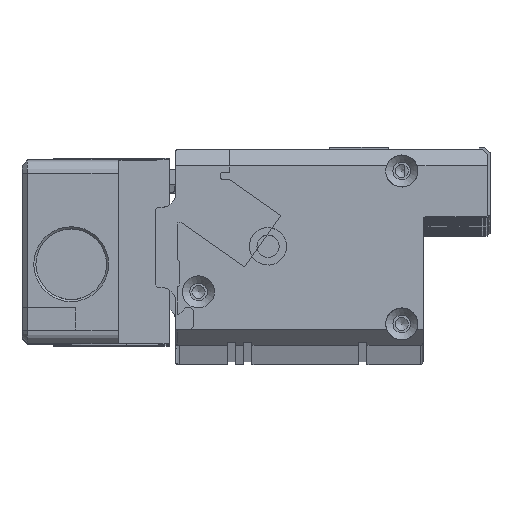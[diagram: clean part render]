
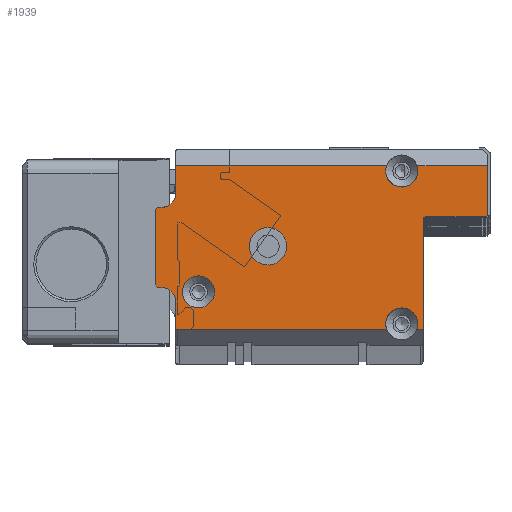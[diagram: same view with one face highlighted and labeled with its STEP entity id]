
A CAD part, top view. The second image highlights one B-rep face of the part: STEP entity #1939.
In plain terms, the highlighted planar face has unit normal (0, 0, 1).
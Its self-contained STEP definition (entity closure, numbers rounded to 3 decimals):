
#1939=ADVANCED_FACE('',(#8200,#8201,#8202),#3088,.T.);
#3088=PLANE('',#23184);
#3877=LINE('',#32192,#6065);
#3878=LINE('',#32194,#6066);
#3879=LINE('',#32198,#6067);
#3880=LINE('',#32202,#6068);
#3881=LINE('',#32204,#6069);
#3882=LINE('',#32208,#6070);
#3883=LINE('',#32210,#6071);
#3884=LINE('',#32214,#6072);
#3885=LINE('',#32218,#6073);
#3886=LINE('',#32222,#6074);
#3887=LINE('',#32226,#6075);
#3888=LINE('',#32228,#6076);
#6065=VECTOR('',#25567,1.);
#6066=VECTOR('',#25568,1.);
#6067=VECTOR('',#25571,1.);
#6068=VECTOR('',#25574,1.);
#6069=VECTOR('',#25575,1.);
#6070=VECTOR('',#25578,1.);
#6071=VECTOR('',#25579,1.);
#6072=VECTOR('',#25582,1.);
#6073=VECTOR('',#25585,1.);
#6074=VECTOR('',#25588,1.);
#6075=VECTOR('',#25591,1.);
#6076=VECTOR('',#25592,1.);
#8200=FACE_BOUND('',#8564,.T.);
#8201=FACE_BOUND('',#8565,.T.);
#8202=FACE_BOUND('',#8566,.T.);
#8564=EDGE_LOOP('',(#10104));
#8565=EDGE_LOOP('',(#10105,#10106,#10107,#10108,#10109,#10110,#10111,#10112,
#10113,#10114,#10115,#10116,#10117,#10118,#10119,#10120,#10121,#10122,#10123,
#10124));
#8566=EDGE_LOOP('',(#10125));
#10104=ORIENTED_EDGE('',*,*,#18981,.T.);
#10105=ORIENTED_EDGE('',*,*,#18982,.T.);
#10106=ORIENTED_EDGE('',*,*,#18983,.T.);
#10107=ORIENTED_EDGE('',*,*,#18984,.T.);
#10108=ORIENTED_EDGE('',*,*,#18985,.T.);
#10109=ORIENTED_EDGE('',*,*,#18986,.T.);
#10110=ORIENTED_EDGE('',*,*,#18987,.T.);
#10111=ORIENTED_EDGE('',*,*,#18988,.T.);
#10112=ORIENTED_EDGE('',*,*,#18989,.T.);
#10113=ORIENTED_EDGE('',*,*,#18990,.T.);
#10114=ORIENTED_EDGE('',*,*,#18991,.T.);
#10115=ORIENTED_EDGE('',*,*,#18992,.T.);
#10116=ORIENTED_EDGE('',*,*,#18993,.T.);
#10117=ORIENTED_EDGE('',*,*,#18994,.T.);
#10118=ORIENTED_EDGE('',*,*,#18995,.T.);
#10119=ORIENTED_EDGE('',*,*,#18996,.T.);
#10120=ORIENTED_EDGE('',*,*,#18997,.T.);
#10121=ORIENTED_EDGE('',*,*,#18998,.T.);
#10122=ORIENTED_EDGE('',*,*,#18999,.T.);
#10123=ORIENTED_EDGE('',*,*,#19000,.T.);
#10124=ORIENTED_EDGE('',*,*,#19001,.T.);
#10125=ORIENTED_EDGE('',*,*,#19002,.T.);
#16666=VERTEX_POINT('',#32188);
#16667=VERTEX_POINT('',#32190);
#16668=VERTEX_POINT('',#32191);
#16669=VERTEX_POINT('',#32193);
#16670=VERTEX_POINT('',#32195);
#16671=VERTEX_POINT('',#32197);
#16672=VERTEX_POINT('',#32199);
#16673=VERTEX_POINT('',#32201);
#16674=VERTEX_POINT('',#32203);
#16675=VERTEX_POINT('',#32205);
#16676=VERTEX_POINT('',#32207);
#16677=VERTEX_POINT('',#32209);
#16678=VERTEX_POINT('',#32211);
#16679=VERTEX_POINT('',#32213);
#16680=VERTEX_POINT('',#32215);
#16681=VERTEX_POINT('',#32217);
#16682=VERTEX_POINT('',#32219);
#16683=VERTEX_POINT('',#32221);
#16684=VERTEX_POINT('',#32223);
#16685=VERTEX_POINT('',#32225);
#16686=VERTEX_POINT('',#32227);
#16687=VERTEX_POINT('',#32230);
#18981=EDGE_CURVE('',#16666,#16666,#22250,.T.);
#18982=EDGE_CURVE('',#16667,#16668,#22251,.T.);
#18983=EDGE_CURVE('',#16668,#16669,#3877,.T.);
#18984=EDGE_CURVE('',#16669,#16670,#3878,.T.);
#18985=EDGE_CURVE('',#16670,#16671,#22252,.T.);
#18986=EDGE_CURVE('',#16671,#16672,#3879,.T.);
#18987=EDGE_CURVE('',#16672,#16673,#22253,.T.);
#18988=EDGE_CURVE('',#16673,#16674,#3880,.T.);
#18989=EDGE_CURVE('',#16674,#16675,#3881,.T.);
#18990=EDGE_CURVE('',#16675,#16676,#22254,.T.);
#18991=EDGE_CURVE('',#16676,#16677,#3882,.T.);
#18992=EDGE_CURVE('',#16677,#16678,#3883,.T.);
#18993=EDGE_CURVE('',#16678,#16679,#22255,.T.);
#18994=EDGE_CURVE('',#16679,#16680,#3884,.T.);
#18995=EDGE_CURVE('',#16680,#16681,#22256,.T.);
#18996=EDGE_CURVE('',#16681,#16682,#3885,.T.);
#18997=EDGE_CURVE('',#16682,#16683,#22257,.T.);
#18998=EDGE_CURVE('',#16683,#16684,#3886,.T.);
#18999=EDGE_CURVE('',#16684,#16685,#22258,.T.);
#19000=EDGE_CURVE('',#16685,#16686,#3887,.T.);
#19001=EDGE_CURVE('',#16686,#16667,#3888,.T.);
#19002=EDGE_CURVE('',#16687,#16687,#22259,.T.);
#22250=CIRCLE('',#23174,3.);
#22251=CIRCLE('',#23175,3.);
#22252=CIRCLE('',#23176,0.5);
#22253=CIRCLE('',#23177,0.5);
#22254=CIRCLE('',#23178,3.);
#22255=CIRCLE('',#23179,2.5);
#22256=CIRCLE('',#23180,0.5);
#22257=CIRCLE('',#23181,0.5);
#22258=CIRCLE('',#23182,2.5);
#22259=CIRCLE('',#23183,3.5);
#23174=AXIS2_PLACEMENT_3D('',#32187,#25563,#25564);
#23175=AXIS2_PLACEMENT_3D('',#32189,#25565,#25566);
#23176=AXIS2_PLACEMENT_3D('',#32196,#25569,#25570);
#23177=AXIS2_PLACEMENT_3D('',#32200,#25572,#25573);
#23178=AXIS2_PLACEMENT_3D('',#32206,#25576,#25577);
#23179=AXIS2_PLACEMENT_3D('',#32212,#25580,#25581);
#23180=AXIS2_PLACEMENT_3D('',#32216,#25583,#25584);
#23181=AXIS2_PLACEMENT_3D('',#32220,#25586,#25587);
#23182=AXIS2_PLACEMENT_3D('',#32224,#25589,#25590);
#23183=AXIS2_PLACEMENT_3D('',#32229,#25593,#25594);
#23184=AXIS2_PLACEMENT_3D('',#32231,#25595,#25596);
#25563=DIRECTION('',(0.,0.,-1.));
#25564=DIRECTION('',(-1.,0.,0.));
#25565=DIRECTION('',(0.,0.,-1.));
#25566=DIRECTION('',(-1.,0.,0.));
#25567=DIRECTION('',(1.,0.,0.));
#25568=DIRECTION('',(0.,1.,0.));
#25569=DIRECTION('',(0.,0.,-1.));
#25570=DIRECTION('',(1.,0.,0.));
#25571=DIRECTION('',(1.,0.,0.));
#25572=DIRECTION('',(0.,0.,1.));
#25573=DIRECTION('',(1.,0.,0.));
#25574=DIRECTION('',(0.,1.,0.));
#25575=DIRECTION('',(-1.,0.,0.));
#25576=DIRECTION('',(0.,0.,-1.));
#25577=DIRECTION('',(-1.,0.,0.));
#25578=DIRECTION('',(-1.,0.,0.));
#25579=DIRECTION('',(0.,-1.,0.));
#25580=DIRECTION('',(0.,0.,-1.));
#25581=DIRECTION('',(1.,0.,0.));
#25582=DIRECTION('',(-1.,0.,0.));
#25583=DIRECTION('',(0.,0.,1.));
#25584=DIRECTION('',(1.,0.,0.));
#25585=DIRECTION('',(0.,-1.,0.));
#25586=DIRECTION('',(0.,0.,1.));
#25587=DIRECTION('',(1.,0.,0.));
#25588=DIRECTION('',(1.,0.,0.));
#25589=DIRECTION('',(0.,0.,-1.));
#25590=DIRECTION('',(1.,0.,0.));
#25591=DIRECTION('',(0.,-1.,0.));
#25592=DIRECTION('',(1.,0.,0.));
#25593=DIRECTION('',(0.,0.,-1.));
#25594=DIRECTION('',(-1.,0.,0.));
#25595=DIRECTION('',(0.,0.,1.));
#25596=DIRECTION('',(-1.,0.,0.));
#32187=CARTESIAN_POINT('',(8.,-26.6,8.));
#32188=CARTESIAN_POINT('',(5.,-26.6,8.));
#32189=CARTESIAN_POINT('',(46.,-32.6,8.));
#32190=CARTESIAN_POINT('',(43.172,-33.6,8.));
#32191=CARTESIAN_POINT('',(48.828,-33.6,8.));
#32192=CARTESIAN_POINT('',(50.,-33.6,8.));
#32193=CARTESIAN_POINT('',(50.,-33.6,8.));
#32194=CARTESIAN_POINT('',(50.,-36.6,8.));
#32195=CARTESIAN_POINT('',(50.,-13.1,8.));
#32196=CARTESIAN_POINT('',(50.5,-13.1,8.));
#32197=CARTESIAN_POINT('',(50.5,-12.6,8.));
#32198=CARTESIAN_POINT('',(50.,-12.6,8.));
#32199=CARTESIAN_POINT('',(61.6,-12.6,8.));
#32200=CARTESIAN_POINT('',(61.6,-12.1,8.));
#32201=CARTESIAN_POINT('',(62.1,-12.1,8.));
#32202=CARTESIAN_POINT('',(62.1,-12.6,8.));
#32203=CARTESIAN_POINT('',(62.1,-3.,8.));
#32204=CARTESIAN_POINT('',(3.7,-3.,8.));
#32205=CARTESIAN_POINT('',(48.828,-3.,8.));
#32206=CARTESIAN_POINT('',(46.,-4.,8.));
#32207=CARTESIAN_POINT('',(43.172,-3.,8.));
#32208=CARTESIAN_POINT('',(3.7,-3.,8.));
#32209=CARTESIAN_POINT('',(3.7,-3.,8.));
#32210=CARTESIAN_POINT('',(3.7,0.,8.));
#32211=CARTESIAN_POINT('',(3.7,-8.3,8.));
#32212=CARTESIAN_POINT('',(1.2,-8.3,8.));
#32213=CARTESIAN_POINT('',(1.2,-10.8,8.));
#32214=CARTESIAN_POINT('',(3.7,-10.8,8.));
#32215=CARTESIAN_POINT('',(0.5,-10.8,8.));
#32216=CARTESIAN_POINT('',(0.5,-11.3,8.));
#32217=CARTESIAN_POINT('',(0.,-11.3,8.));
#32218=CARTESIAN_POINT('',(0.,-10.8,8.));
#32219=CARTESIAN_POINT('',(0.,-25.3,8.));
#32220=CARTESIAN_POINT('',(0.5,-25.3,8.));
#32221=CARTESIAN_POINT('',(0.5,-25.8,8.));
#32222=CARTESIAN_POINT('',(0.,-25.8,8.));
#32223=CARTESIAN_POINT('',(1.2,-25.8,8.));
#32224=CARTESIAN_POINT('',(1.2,-28.3,8.));
#32225=CARTESIAN_POINT('',(3.7,-28.3,8.));
#32226=CARTESIAN_POINT('',(3.7,-25.8,8.));
#32227=CARTESIAN_POINT('',(3.7,-33.6,8.));
#32228=CARTESIAN_POINT('',(50.,-33.6,8.));
#32229=CARTESIAN_POINT('',(21.,-18.1,8.));
#32230=CARTESIAN_POINT('',(17.5,-18.1,8.));
#32231=CARTESIAN_POINT('',(0.,0.,8.));
